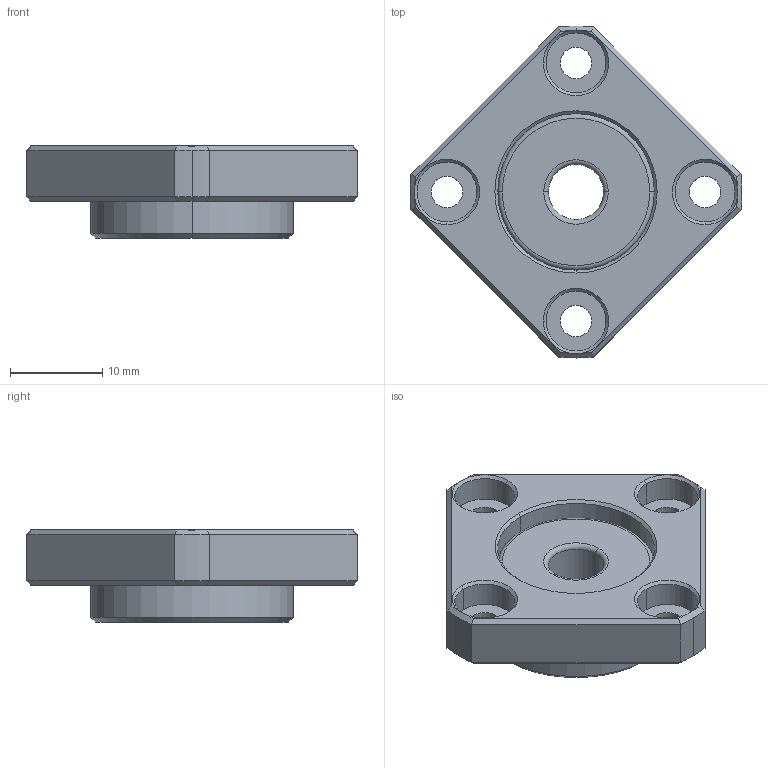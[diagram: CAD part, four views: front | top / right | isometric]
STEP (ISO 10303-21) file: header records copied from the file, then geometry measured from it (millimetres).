
FILE_DESCRIPTION (( 'STEP AP203' ), '1' );
FILE_NAME ('FSGF-6_203.STEP', '2013-02-28T00:06:40', ( '' ), ( '' ), 'SwSTEP 2.0', 'SolidWorks 2012', '' );
FILE_SCHEMA (( 'CONFIG_CONTROL_DESIGN' ));
Length unit declared in the file: millimetre
Products named in the file (1): FSGF-6_203
Bounding box: 35.98 x 36 x 10 mm (x, y, z)
Volume: 4508.3 mm3; surface area: 2982.9 mm2
Topology: 1 solids, 1 shells, 82 faces, 198 edges, 121 vertices
Faces by surface type: cylinder 29, cone 24, plane 21, torus 8
Entity records: 2528 total; most frequent: CARTESIAN_POINT 465, DIRECTION 455, ORIENTED_EDGE 396, EDGE_CURVE 198, AXIS2_PLACEMENT_3D 195, VERTEX_POINT 121, CIRCLE 112, EDGE_LOOP 95
